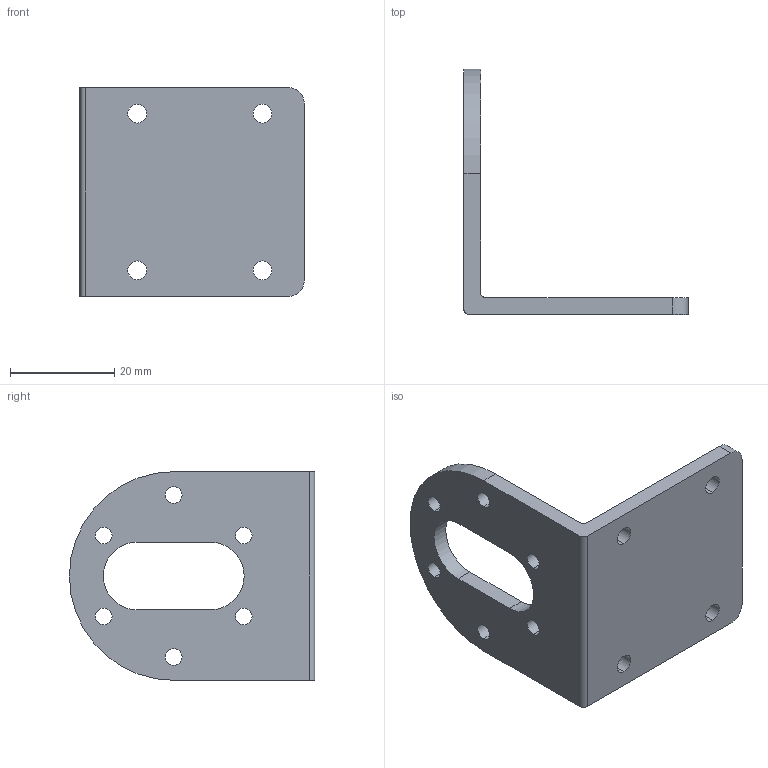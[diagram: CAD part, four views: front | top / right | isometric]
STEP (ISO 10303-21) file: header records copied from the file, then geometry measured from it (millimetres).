
FILE_DESCRIPTION (( 'STEP AP203' ), '1' );
FILE_NAME ('520萇儂盓殤.STEP', '2022-10-12T01:40:41', ( '' ), ( '' ), 'SwSTEP 2.0', 'SolidWorks 2016', '' );
FILE_SCHEMA (( 'CONFIG_CONTROL_DESIGN' ));
Length unit declared in the file: millimetre
Products named in the file (1): 520萇儂盓殤
Bounding box: 43 x 47 x 40 mm (x, y, z)
Volume: 9256.8 mm3; surface area: 7057.6 mm2
Topology: 1 solids, 1 shells, 36 faces, 102 edges, 68 vertices
Faces by surface type: cylinder 27, plane 9
Entity records: 1321 total; most frequent: DIRECTION 230, CARTESIAN_POINT 207, ORIENTED_EDGE 204, EDGE_CURVE 102, AXIS2_PLACEMENT_3D 91, VERTEX_POINT 68, EDGE_LOOP 58, CIRCLE 54
